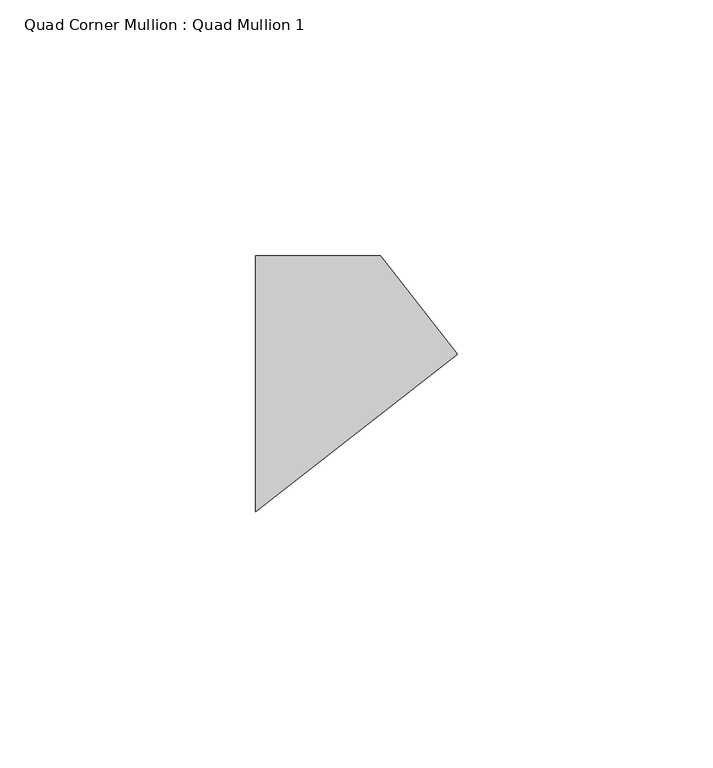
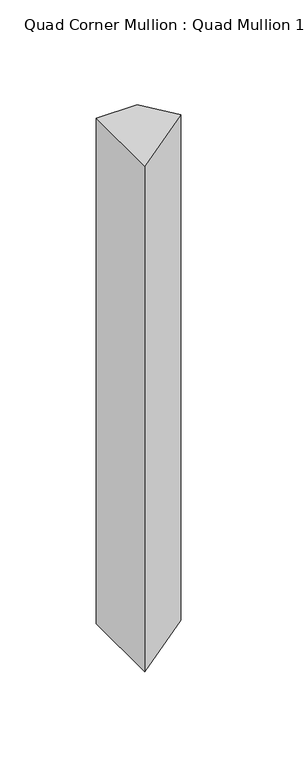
"""IFC4 building model written with IfcOpenShell, lengths in millimetres: member geometry, Quad Corner Mullion : Quad Mullion 1."""

import ifcopenshell
import ifcopenshell.guid

model = None  # the IFC model being written
_history = None  # IfcOwnerHistory: only IFC2X3 demands one
_inside = {}  # id of a spatial element -> (the spatial element, [elements in it])
_under = {}  # id of a project, library or spatial element -> (it, [spatial elements below it])
_declared = {}  # id of a project -> (the project, [libraries it declares])
_typed = {}  # id of a type object -> (the type object, [elements of that type])
_made_of = {}  # id of a material, layer set ... -> (it, [elements and type objects made of it])


def new_model(schema):
    """Start an empty IFC model of exactly this schema.

    Asked for "IFC4X3", IfcOpenShell would pick the latest addendum, in which some entities
    have other attributes; the version numbers below select the first issue.
    IFC2X3 requires an IfcOwnerHistory on every rooted entity: one is made here for all.
    """
    global model, _history
    if schema == "IFC4X3":
        model = ifcopenshell.file(schema_version=(4, 3, 0, 0))
    else:
        model = ifcopenshell.file(schema=schema)
    _inside.clear()
    _under.clear()
    _declared.clear()
    _typed.clear()
    _made_of.clear()
    _history = None
    if model.schema == "IFC2X3":
        org = make("IfcOrganization", Name="unknown")
        user = make(
            "IfcPersonAndOrganization",
            ThePerson=make("IfcPerson", FamilyName="unknown"),
            TheOrganization=org,
        )
        app = make(
            "IfcApplication",
            ApplicationDeveloper=org,
            Version="unknown",
            ApplicationFullName="unknown",
            ApplicationIdentifier="unknown",
        )
        _history = make(
            "IfcOwnerHistory",
            OwningUser=user,
            OwningApplication=app,
            ChangeAction="ADDED",
            CreationDate=0,
        )
    return model


def make(cls, **values):
    """One entity of the class cls with the attributes given. An attribute that is None is left unset."""
    return model.create_entity(
        cls, **{name: value for name, value in values.items() if value is not None}
    )


def rooted(cls, **values):
    """An entity with a GlobalId (a new one), such as an element, a storey or a relation."""
    return make(cls, GlobalId=ifcopenshell.guid.new(), OwnerHistory=_history, **values)


def si_unit(unit_type, name, prefix=None):
    """IfcSIUnit, for example si_unit("LENGTHUNIT", "METRE", prefix="MILLI")."""
    return make("IfcSIUnit", UnitType=unit_type, Prefix=prefix, Name=name)


def assignment(units):
    """IfcUnitAssignment: the units of a project."""
    return None if units is None else make("IfcUnitAssignment", Units=units)


def point(xyz):
    """IfcCartesianPoint."""
    return None if xyz is None else make("IfcCartesianPoint", Coordinates=xyz)


def direction(xyz):
    """IfcDirection."""
    return None if xyz is None else make("IfcDirection", DirectionRatios=xyz)


def frame(location, z_axis=None, x_axis=None):
    """IfcAxis2Placement3D, a coordinate frame: its origin and axes. An axis left out is left unset."""
    return make(
        "IfcAxis2Placement3D",
        Location=point(location),
        Axis=direction(z_axis),
        RefDirection=direction(x_axis),
    )


def origin():
    """The frame at (0, 0, 0) with its axes left unset."""
    return frame((0.0, 0.0, 0.0))


def place(relative_to, where):
    """IfcLocalPlacement: puts the frame where relative to a parent placement (None: the world)."""
    return make(
        "IfcLocalPlacement", PlacementRelTo=relative_to, RelativePlacement=where
    )


def context(
    kind, dimensions, precision=None, world=None, true_north=None, identifier=None
):
    """IfcGeometricRepresentationContext, for example the 3D "Model" context."""
    return make(
        "IfcGeometricRepresentationContext",
        ContextIdentifier=identifier,
        ContextType=kind,
        CoordinateSpaceDimension=dimensions,
        Precision=precision,
        WorldCoordinateSystem=world,
        TrueNorth=true_north,
    )


def project(units=None, contexts=None):
    """IfcProject with its units and contexts."""
    return rooted(
        "IfcProject",
        Name="project",
        RepresentationContexts=contexts,
        UnitsInContext=assignment(units),
    )


def spatial(cls, under=None, at=None, **own):
    """A site, building, storey or space (cls), placed at a placement, below another one or the project."""
    s = rooted(cls, ObjectPlacement=at, **own)
    if under is not None:
        _under.setdefault(under.id(), (under, []))[1].append(s)
    return s


def polyline(points):
    """IfcPolyline through the points."""
    return make("IfcPolyline", Points=[point(p) for p in points])


def outline(outer, holes=None, kind="AREA"):
    """IfcArbitraryClosedProfileDef: a profile drawn as a closed curve; with holes, ...WithVoids."""
    if holes is None:
        return make("IfcArbitraryClosedProfileDef", ProfileType=kind, OuterCurve=outer)
    return make(
        "IfcArbitraryProfileDefWithVoids",
        ProfileType=kind,
        OuterCurve=outer,
        InnerCurves=holes,
    )


def extrude(swept, where, along, depth):
    """IfcExtrudedAreaSolid: the profile swept, set in the frame where, extruded along a direction by depth."""
    return make(
        "IfcExtrudedAreaSolid",
        SweptArea=swept,
        Position=where,
        ExtrudedDirection=direction(along),
        Depth=depth,
    )


def shape(context_of_items, identifier, shape_type, items):
    """IfcShapeRepresentation: the items that make up one representation, for example the "Body"."""
    return make(
        "IfcShapeRepresentation",
        ContextOfItems=context_of_items,
        RepresentationIdentifier=identifier,
        RepresentationType=shape_type,
        Items=items,
    )


def source(mapping_origin, context_of_items, identifier, shape_type, items):
    """IfcRepresentationMap: a shape defined once, which mapped items show again and again."""
    return make(
        "IfcRepresentationMap",
        MappingOrigin=mapping_origin,
        MappedRepresentation=shape(context_of_items, identifier, shape_type, items),
    )


def transform(
    local_origin,
    x_axis=None,
    y_axis=None,
    z_axis=None,
    scale=None,
    scale2=None,
    scale3=None,
    uniform=True,
):
    """IfcCartesianTransformationOperator3D, or its non-uniform kind. x_axis, y_axis, z_axis: its Axis1, 2, 3."""
    if uniform:
        return make(
            "IfcCartesianTransformationOperator3D",
            Axis1=direction(x_axis),
            Axis2=direction(y_axis),
            LocalOrigin=point(local_origin),
            Scale=scale,
            Axis3=direction(z_axis),
        )
    return make(
        "IfcCartesianTransformationOperator3DnonUniform",
        Axis1=direction(x_axis),
        Axis2=direction(y_axis),
        LocalOrigin=point(local_origin),
        Scale=scale,
        Axis3=direction(z_axis),
        Scale2=scale2,
        Scale3=scale3,
    )


def mapped(mapping_source, mapping_target):
    """IfcMappedItem: shows the shape of a source again, moved by a transform."""
    return make(
        "IfcMappedItem", MappingSource=mapping_source, MappingTarget=mapping_target
    )


def made_of(thing, what):
    """Note that an element or type object is made of a material, layer set ...; save() writes the relation."""
    if what is not None:
        _made_of.setdefault(what.id(), (what, []))[1].append(thing)
    return thing


def element(
    cls,
    number,
    at=None,
    inside=None,
    cuts=None,
    type_object=None,
    material=None,
    context=None,
    identifier="Body",
    shape_type=None,
    held_by="IfcProductDefinitionShape",
    body=None,
    shapes=None,
    **own,
):
    """One element of the class cls, such as IfcWall. Its Tag is "e" and its number.

    at: its placement. inside: the storey or other place that contains it. cuts: it is an
    opening in that element (IfcRelVoidsElement). A single representation is given by context,
    identifier, shape_type and body (its items); several are given by shapes. held_by: the class
    of the entity that holds the representations. save() writes the other relations.
    """
    e = rooted(cls, Tag="e%d" % number, ObjectPlacement=at, **own)
    if body is not None:
        shapes = [shape(context, identifier, shape_type, body)]
    if shapes is not None:
        e.Representation = make(held_by, Representations=shapes)
    if inside is not None:
        _inside.setdefault(inside.id(), (inside, []))[1].append(e)
    if cuts is not None:
        rooted(
            "IfcRelVoidsElement", RelatingBuildingElement=cuts, RelatedOpeningElement=e
        )
    if type_object is not None:
        _typed.setdefault(type_object.id(), (type_object, []))[1].append(e)
    return made_of(e, material)


def aggregate(whole, parts):
    """IfcRelAggregates: a whole, such as a stair, and the parts it consists of."""
    return rooted("IfcRelAggregates", RelatingObject=whole, RelatedObjects=parts)


def save(model, path):
    """Write the relations noted so far, then the file.

    IfcRelAggregates (storeys below a building ...), IfcRelContainedInSpatialStructure (elements
    in a storey), IfcRelDefinesByType, IfcRelAssociatesMaterial and IfcRelDeclares: one each for
    every whole, place, type object, material and project.
    """
    for whole, parts in _under.values():
        aggregate(whole, parts)
    for where, things in _inside.values():
        rooted(
            "IfcRelContainedInSpatialStructure",
            RelatedElements=things,
            RelatingStructure=where,
        )
    for kind, things in _typed.values():
        rooted("IfcRelDefinesByType", RelatedObjects=things, RelatingType=kind)
    for what, things in _made_of.values():
        rooted("IfcRelAssociatesMaterial", RelatedObjects=things, RelatingMaterial=what)
    for by, libraries in _declared.values():
        rooted("IfcRelDeclares", RelatingContext=by, RelatedDefinitions=libraries)
    model.write(path)


def quad_corner_mullion_quad_mullion_1_a67d36d7(model_context):
    return source(origin(), model_context, "Body", "SweptSolid", [
        extrude(outline(polyline([(27.207223, 5.7830738), (-12.1933147, -25.0), (-12.1933147, 25.0), (12.1933147, 25.0), (27.207223, 5.7830738)])), frame((0.0, 0.0, -320.0), z_axis=(0.0, 0.0, 1.0), x_axis=(1.0, 0.0, 0.0)), (0.0, 0.0, 1.0), 320.0),
    ])


if __name__ == "__main__":
    model = new_model("IFC4")
    model_context = context("Model", 3, world=origin())
    ifc_project = project(units=[si_unit("LENGTHUNIT", "METRE", prefix="MILLI")], contexts=[model_context])
    site = spatial("IfcSite", under=ifc_project)
    building = spatial("IfcBuilding", under=site)
    placement = place(None, origin())
    quad_corner_mullion_quad_mullion_1_shape = quad_corner_mullion_quad_mullion_1_a67d36d7(model_context)
    element("IfcMember", 1, ObjectType="Quad Corner Mullion : Quad Mullion 1", at=placement, inside=building, context=model_context, shape_type="MappedRepresentation", body=[
        mapped(quad_corner_mullion_quad_mullion_1_shape, transform((0.0, 0.0, 0.0), x_axis=(1.0, 0.0, 0.0), y_axis=(0.0, 1.0, 0.0), z_axis=(0.0, 0.0, 1.0))),
    ])
    save(model, "model.ifc")
